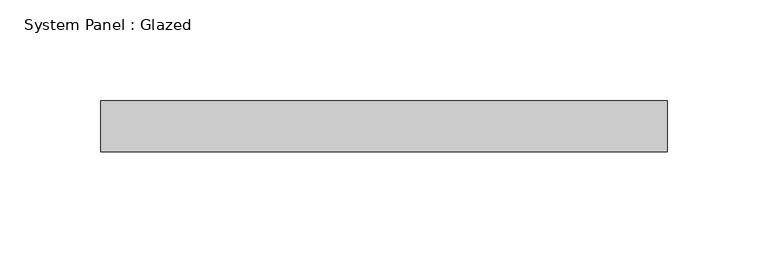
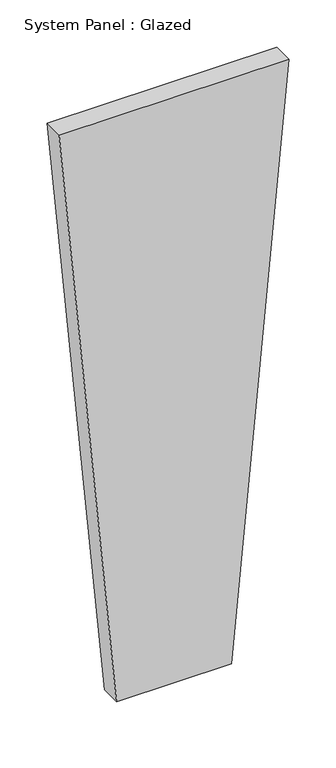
"""IFC4 building model written with IfcOpenShell, lengths in millimetres: plate geometry, System Panel : Glazed."""

from ifc_helpers import new_model, si_unit, frame, origin, place, context, project, spatial, polyline, outline, extrude, source, transform, mapped, element, save


def system_panel_glazed_09de8fbd(model_context):
    return source(origin(), model_context, "Body", "SweptSolid", [
        extrude(outline(polyline([(0.0, -70.4469249), (0.0, 70.4469249), (758.7366017, 140.8938498), (758.7366017, -140.8938498), (0.0, -70.4469249)])), frame((0.0, -44.45, 0.0), z_axis=(0.0, 1.0, 0.0), x_axis=(0.0, 0.0, 1.0)), (0.0, 0.0, 1.0), 25.4),
    ])


if __name__ == "__main__":
    model = new_model("IFC4")
    model_context = context("Model", 3, world=origin())
    ifc_project = project(units=[si_unit("LENGTHUNIT", "METRE", prefix="MILLI")], contexts=[model_context])
    site = spatial("IfcSite", under=ifc_project)
    building = spatial("IfcBuilding", under=site)
    placement = place(None, origin())
    system_panel_glazed_shape = system_panel_glazed_09de8fbd(model_context)
    element("IfcPlate", 1, ObjectType="System Panel : Glazed", at=placement, inside=building, context=model_context, shape_type="MappedRepresentation", body=[
        mapped(system_panel_glazed_shape, transform((0.0, 0.0, 0.0), x_axis=(1.0, 0.0, 0.0), y_axis=(0.0, 1.0, 0.0), z_axis=(0.0, 0.0, 1.0))),
    ])
    save(model, "model.ifc")
